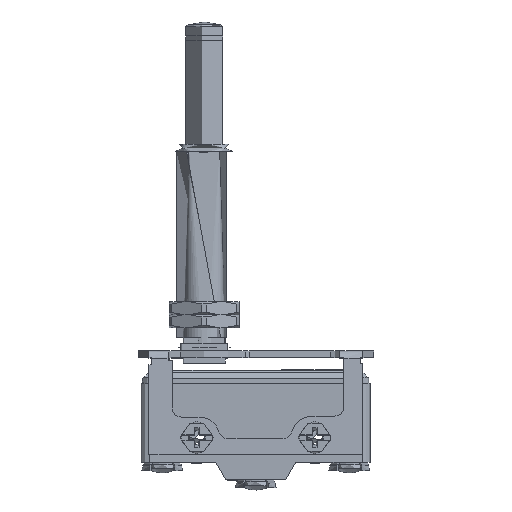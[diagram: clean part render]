
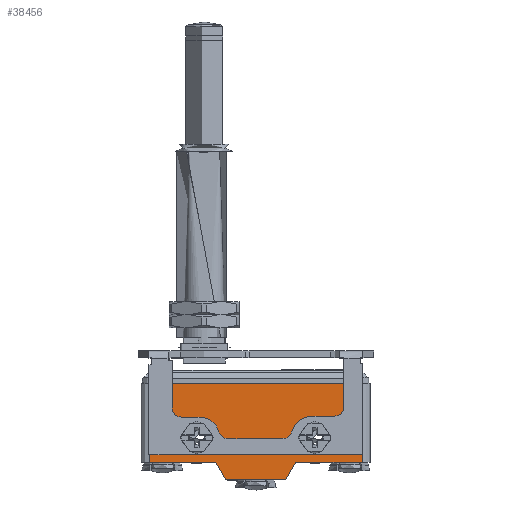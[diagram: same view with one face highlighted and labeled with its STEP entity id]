
A CAD part, top view. The second image highlights one B-rep face of the part: STEP entity #38456.
In plain terms, the highlighted planar face has unit normal (0, 0, 1).
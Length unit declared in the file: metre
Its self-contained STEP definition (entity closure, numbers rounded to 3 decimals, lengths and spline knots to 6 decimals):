
#35945=CARTESIAN_POINT('',(0.005537,-0.008608,0.05825));
#35946=VERTEX_POINT('',#35945);
#35949=CARTESIAN_POINT('',(0.003401,-0.012308,0.05825));
#35950=DIRECTION('',(0.5,0.866,0.));
#35951=VECTOR('',#35950,1.);
#35952=LINE('',#35949,#35951);
#35953=CARTESIAN_POINT('',(0.003401,-0.012308,0.05825));
#35954=VERTEX_POINT('',#35953);
#35955=EDGE_CURVE('',#35954,#35946,#35952,.T.);
#36783=CARTESIAN_POINT('',(-0.009527,-0.012308,0.05825));
#36784=VERTEX_POINT('',#36783);
#36787=CARTESIAN_POINT('',(-0.011663,-0.008608,0.05825));
#36788=DIRECTION('',(0.5,-0.866,0.));
#36789=VECTOR('',#36788,1.);
#36790=LINE('',#36787,#36789);
#36791=CARTESIAN_POINT('',(-0.011663,-0.008608,0.05825));
#36792=VERTEX_POINT('',#36791);
#36793=EDGE_CURVE('',#36792,#36784,#36790,.T.);
#38150=CARTESIAN_POINT('',(-0.027763,-0.008608,0.05825));
#38151=DIRECTION('',(1.,0.,0.));
#38152=VECTOR('',#38151,1.);
#38153=LINE('',#38150,#38152);
#38154=CARTESIAN_POINT('',(-0.026013,-0.008608,0.05825));
#38155=VERTEX_POINT('',#38154);
#38156=EDGE_CURVE('',#38155,#36792,#38153,.T.);
#38347=CARTESIAN_POINT('',(-0.026013,0.008392,0.05825));
#38348=VERTEX_POINT('',#38347);
#38353=CARTESIAN_POINT('',(-0.026013,-0.004008,0.05825));
#38354=DIRECTION('',(0.,-1.,0.));
#38355=VECTOR('',#38354,1.);
#38356=LINE('',#38353,#38355);
#38357=EDGE_CURVE('',#38348,#38155,#38356,.T.);
#38370=CARTESIAN_POINT('',(0.010277,-0.004008,0.05825));
#38371=DIRECTION('',(0.,0.,-1.));
#38372=DIRECTION('',(-1.,0.,0.));
#38373=AXIS2_PLACEMENT_3D('',#38370,#38371,#38372);
#38374=PLANE('',#38373);
#38375=CARTESIAN_POINT('',(-0.014406,-0.001208,0.05825));
#38376=DIRECTION('',(-1.,0.,0.));
#38377=VECTOR('',#38376,1.);
#38378=LINE('',#38375,#38377);
#38379=CARTESIAN_POINT('',(-0.014406,-0.001208,0.05825));
#38380=VERTEX_POINT('',#38379);
#38381=CARTESIAN_POINT('',(-0.017119,-0.001208,0.05825));
#38382=VERTEX_POINT('',#38381);
#38383=EDGE_CURVE('',#38380,#38382,#38378,.T.);
#38384=ORIENTED_EDGE('',*,*,#38383,.F.);
#38385=CARTESIAN_POINT('',(-0.015763,-0.003308,0.05825));
#38386=DIRECTION('',(0.,0.,1.));
#38387=DIRECTION('',(1.,0.,0.));
#38388=AXIS2_PLACEMENT_3D('',#38385,#38386,#38387);
#38389=CIRCLE('',#38388,0.0025);
#38390=CARTESIAN_POINT('',(-0.014406,-0.005408,0.05825));
#38391=VERTEX_POINT('',#38390);
#38392=EDGE_CURVE('',#38391,#38380,#38389,.T.);
#38393=ORIENTED_EDGE('',*,*,#38392,.F.);
#38394=CARTESIAN_POINT('',(-0.014406,-0.005408,0.05825));
#38395=DIRECTION('',(1.,0.,0.));
#38396=VECTOR('',#38395,1.);
#38397=LINE('',#38394,#38396);
#38398=CARTESIAN_POINT('',(-0.017119,-0.005408,0.05825));
#38399=VERTEX_POINT('',#38398);
#38400=EDGE_CURVE('',#38399,#38391,#38397,.T.);
#38401=ORIENTED_EDGE('',*,*,#38400,.F.);
#38402=CARTESIAN_POINT('',(-0.015763,-0.003308,0.05825));
#38403=DIRECTION('',(0.,0.,1.));
#38404=DIRECTION('',(1.,0.,0.));
#38405=AXIS2_PLACEMENT_3D('',#38402,#38403,#38404);
#38406=CIRCLE('',#38405,0.0025);
#38407=EDGE_CURVE('',#38382,#38399,#38406,.T.);
#38408=ORIENTED_EDGE('',*,*,#38407,.F.);
#38409=EDGE_LOOP('',(#38384,#38393,#38401,#38408));
#38410=FACE_BOUND('',#38409,.T.);
#38411=CARTESIAN_POINT('',(0.009637,-0.003308,0.05825));
#38412=DIRECTION('',(0.,0.,1.));
#38413=DIRECTION('',(1.,0.,0.));
#38414=AXIS2_PLACEMENT_3D('',#38411,#38412,#38413);
#38415=CIRCLE('',#38414,0.0021);
#38416=CARTESIAN_POINT('',(0.007537,-0.003308,0.05825));
#38417=VERTEX_POINT('',#38416);
#38418=EDGE_CURVE('',#38417,#38417,#38415,.T.);
#38419=ORIENTED_EDGE('',*,*,#38418,.F.);
#38420=EDGE_LOOP('',(#38419));
#38421=FACE_BOUND('',#38420,.T.);
#38422=CARTESIAN_POINT('',(0.005537,-0.008608,0.05825));
#38423=DIRECTION('',(1.,0.,0.));
#38424=VECTOR('',#38423,1.);
#38425=LINE('',#38422,#38424);
#38426=CARTESIAN_POINT('',(0.019887,-0.008608,0.05825));
#38427=VERTEX_POINT('',#38426);
#38428=EDGE_CURVE('',#35946,#38427,#38425,.T.);
#38429=ORIENTED_EDGE('',*,*,#38428,.T.);
#38430=CARTESIAN_POINT('',(0.019887,-0.004008,0.05825));
#38431=DIRECTION('',(0.,1.,0.));
#38432=VECTOR('',#38431,1.);
#38433=LINE('',#38430,#38432);
#38434=CARTESIAN_POINT('',(0.019887,0.008392,0.05825));
#38435=VERTEX_POINT('',#38434);
#38436=EDGE_CURVE('',#38427,#38435,#38433,.T.);
#38437=ORIENTED_EDGE('',*,*,#38436,.T.);
#38438=CARTESIAN_POINT('',(0.021637,0.008392,0.05825));
#38439=DIRECTION('',(-1.,0.,0.));
#38440=VECTOR('',#38439,1.);
#38441=LINE('',#38438,#38440);
#38442=EDGE_CURVE('',#38435,#38348,#38441,.T.);
#38443=ORIENTED_EDGE('',*,*,#38442,.T.);
#38444=ORIENTED_EDGE('',*,*,#38357,.T.);
#38445=ORIENTED_EDGE('',*,*,#38156,.T.);
#38446=ORIENTED_EDGE('',*,*,#36793,.T.);
#38447=CARTESIAN_POINT('',(-0.009527,-0.012308,0.05825));
#38448=DIRECTION('',(1.,0.,0.));
#38449=VECTOR('',#38448,1.);
#38450=LINE('',#38447,#38449);
#38451=EDGE_CURVE('',#36784,#35954,#38450,.T.);
#38452=ORIENTED_EDGE('',*,*,#38451,.T.);
#38453=ORIENTED_EDGE('',*,*,#35955,.T.);
#38454=EDGE_LOOP('',(#38429,#38437,#38443,#38444,#38445,#38446,#38452,#38453));
#38455=FACE_BOUND('',#38454,.T.);
#38456=ADVANCED_FACE('',(#38410,#38421,#38455),#38374,.F.);
